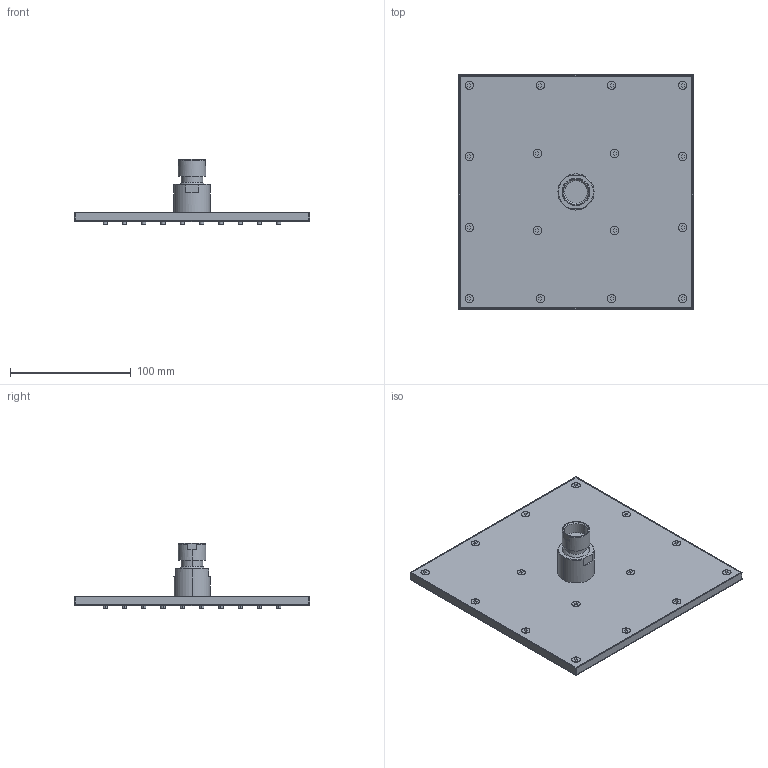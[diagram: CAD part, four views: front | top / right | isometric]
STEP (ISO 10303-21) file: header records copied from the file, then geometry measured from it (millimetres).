
FILE_DESCRIPTION (( 'STEP AP203' ), '1' );
FILE_NAME ('SFQ20.STEP', '2024-03-04T15:43:13', ( '' ), ( '' ), 'SwSTEP 2.0', 'SolidWorks 2023', '' );
FILE_SCHEMA (( 'CONFIG_CONTROL_DESIGN' ));
Length unit declared in the file: millimetre
Products named in the file (1): SFQ20
Bounding box: 195 x 195 x 54 mm (x, y, z)
Volume: 309360 mm3; surface area: 102295.5 mm2
Topology: 2 solids, 2 shells, 1120 faces, 2325 edges, 1541 vertices
Faces by surface type: cylinder 650, plane 457, torus 5, bspline 4, sphere 2, cone 2
Entity records: 30625 total; most frequent: DIRECTION 5844, CARTESIAN_POINT 5327, ORIENTED_EDGE 4632, AXIS2_PLACEMENT_3D 2427, EDGE_CURVE 2316, VERTEX_POINT 1538, EDGE_LOOP 1458, CIRCLE 1310
